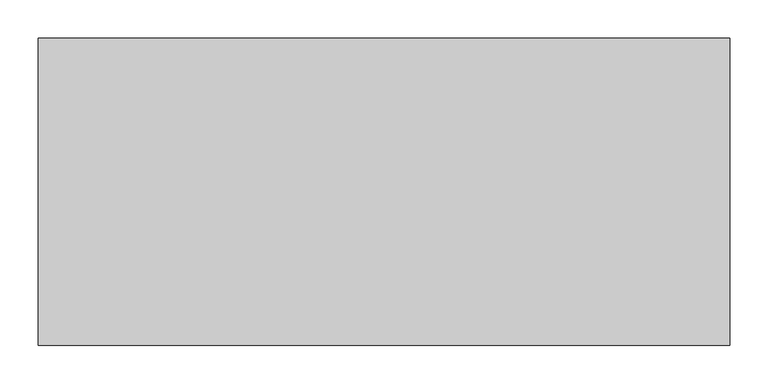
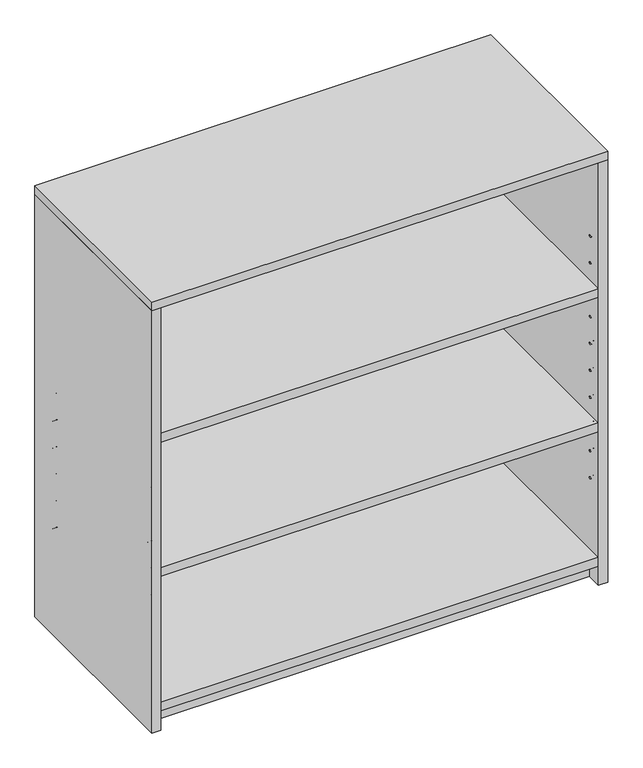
"""IFC4 building model written with IfcOpenShell, lengths in millimetres: furniture geometry, 4.5 Estantería baja : 4.5 Estantería baja."""

from ifc_helpers import new_model, si_unit, frame, origin, origin_with_axes, place, context, project, spatial, polyline, circle_curve, outline, extrude, faceted_brep, source, transform, mapped, element, save
from ifc_brep_helpers import plane_surface, revolved_surface, advanced_brep


def furniture_ab439d99(model_context):
    return source(origin(), model_context, "Body", "SolidModel", [
        extrude(outline(polyline([(432.0, 200.0), (432.0, 182.0), (-432.0, 182.0), (-432.0, 200.0), (432.0, 200.0)])), origin_with_axes(), (0.0, 0.0, 1.0), 882.0),
        faceted_brep([(450.0, -200.0, 882.0), (450.0, -200.0, 900.0), (-450.0, -200.0, 900.0), (-450.0, -200.0, 882.0), (450.0, 200.0, 900.0), (450.0, 200.0, 882.0), (-450.0, 200.0, 882.0), (-450.0, 200.0, 900.0)], [[[0, 1, 2, 3]], [[4, 5, 6, 7]], [[7, 2, 1, 4]], [[6, 3, 2, 7]], [[5, 0, 3, 6]], [[4, 1, 0, 5]]]),
        advanced_brep(
        [(-432.0, 155.0, 711.6133334), (-441.0, 155.0, 711.6133334), (-441.0, 151.0, 711.6133334), (-432.0, 151.0, 711.6133334), (-432.0, 155.0, 655.5147542), (-441.0, 155.0, 655.5147542), (-441.0, 151.0, 655.5147542), (-432.0, 151.0, 655.5147542), (-432.0, 155.0, 599.416175), (-441.0, 155.0, 599.416175), (-441.0, 151.0, 599.416175), (-432.0, 151.0, 599.416175), (-432.0, 155.0, 543.3175957), (-441.0, 155.0, 543.3175957), (-441.0, 151.0, 543.3175957), (-432.0, 151.0, 543.3175957), (-432.0, 155.0, 487.2190165), (-441.0, 155.0, 487.2190165), (-441.0, 151.0, 487.2190165), (-432.0, 151.0, 487.2190165), (-432.0, 155.0, 318.9232788), (-441.0, 155.0, 318.9232788), (-441.0, 151.0, 318.9232788), (-432.0, 151.0, 318.9232788), (-432.0, 155.0, 375.0218581), (-441.0, 155.0, 375.0218581), (-441.0, 151.0, 375.0218581), (-432.0, 151.0, 375.0218581), (-432.0, 155.0, 262.8246996), (-441.0, 155.0, 262.8246996), (-441.0, 151.0, 262.8246996), (-432.0, 151.0, 262.8246996), (-432.0, 155.0, 206.7261204), (-441.0, 155.0, 206.7261204), (-441.0, 151.0, 206.7261204), (-432.0, 151.0, 206.7261204), (-432.0, 155.0, 431.1204373), (-441.0, 155.0, 431.1204373), (-441.0, 151.0, 431.1204373), (-432.0, 151.0, 431.1204373), (-432.0, -169.0, 431.1204373), (-441.0, -169.0, 431.1204373), (-441.0, -173.0, 431.1204373), (-432.0, -173.0, 431.1204373), (-432.0, -169.0, 206.7261204), (-441.0, -169.0, 206.7261204), (-441.0, -173.0, 206.7261204), (-432.0, -173.0, 206.7261204), (-432.0, -169.0, 262.8246996), (-441.0, -169.0, 262.8246996), (-441.0, -173.0, 262.8246996), (-432.0, -173.0, 262.8246996), (-432.0, -169.0, 375.0218581), (-441.0, -169.0, 375.0218581), (-441.0, -173.0, 375.0218581), (-432.0, -173.0, 375.0218581), (-432.0, -169.0, 318.9232788), (-441.0, -169.0, 318.9232788), (-441.0, -173.0, 318.9232788), (-432.0, -173.0, 318.9232788), (-432.0, -169.0, 487.2190165), (-441.0, -169.0, 487.2190165), (-441.0, -173.0, 487.2190165), (-432.0, -173.0, 487.2190165), (-432.0, -169.0, 543.3175957), (-441.0, -169.0, 543.3175957), (-441.0, -173.0, 543.3175957), (-432.0, -173.0, 543.3175957), (-432.0, -169.0, 599.416175), (-441.0, -169.0, 599.416175), (-441.0, -173.0, 599.416175), (-432.0, -173.0, 599.416175), (-432.0, -169.0, 655.5147542), (-441.0, -169.0, 655.5147542), (-441.0, -173.0, 655.5147542), (-432.0, -173.0, 655.5147542), (-432.0, -169.0, 711.6133334), (-441.0, -169.0, 711.6133334), (-441.0, -173.0, 711.6133334), (-432.0, -173.0, 711.6133334), (-432.0, -200.0, 0.0), (-432.0, -200.0, 882.0), (-450.0, -200.0, 882.0), (-450.0, -200.0, 0.0), (-432.0, 200.0, 882.0), (-432.0, 200.0, 0.0), (-450.0, 200.0, 0.0), (-450.0, 200.0, 882.0)],
        [
            (0, 1),
            (1, 2, circle_curve(frame((-441.0, 153.0, 711.6133334), z_axis=(-1.0, 0.0, 0.0), x_axis=(0.0, 1.0, 0.0)), 2.0)),
            (2, 3),
            (3, 0, circle_curve(frame((-432.0, 153.0, 711.6133334), z_axis=(1.0, 0.0, 0.0), x_axis=(0.0, 1.0, 0.0)), 2.0)),
            (4, 5),
            (5, 6, circle_curve(frame((-441.0, 153.0, 655.5147542), z_axis=(-1.0, 0.0, 0.0), x_axis=(0.0, 1.0, 0.0)), 2.0)),
            (6, 7),
            (7, 4, circle_curve(frame((-432.0, 153.0, 655.5147542), z_axis=(1.0, 0.0, 0.0), x_axis=(0.0, 1.0, 0.0)), 2.0)),
            (8, 9),
            (9, 10, circle_curve(frame((-441.0, 153.0, 599.416175), z_axis=(-1.0, 0.0, 0.0), x_axis=(0.0, 1.0, 0.0)), 2.0)),
            (10, 11),
            (11, 8, circle_curve(frame((-432.0, 153.0, 599.416175), z_axis=(1.0, 0.0, 0.0), x_axis=(0.0, 1.0, 0.0)), 2.0)),
            (12, 13),
            (13, 14, circle_curve(frame((-441.0, 153.0, 543.3175957), z_axis=(-1.0, 0.0, 0.0), x_axis=(0.0, 1.0, 0.0)), 2.0)),
            (14, 15),
            (15, 12, circle_curve(frame((-432.0, 153.0, 543.3175957), z_axis=(1.0, 0.0, 0.0), x_axis=(0.0, 1.0, 0.0)), 2.0)),
            (16, 17),
            (17, 18, circle_curve(frame((-441.0, 153.0, 487.2190165), z_axis=(-1.0, 0.0, 0.0), x_axis=(0.0, 1.0, 0.0)), 2.0)),
            (18, 19),
            (19, 16, circle_curve(frame((-432.0, 153.0, 487.2190165), z_axis=(1.0, 0.0, 0.0), x_axis=(0.0, 1.0, 0.0)), 2.0)),
            (20, 21),
            (21, 22, circle_curve(frame((-441.0, 153.0, 318.9232788), z_axis=(-1.0, 0.0, 0.0), x_axis=(0.0, 1.0, 0.0)), 2.0)),
            (22, 23),
            (23, 20, circle_curve(frame((-432.0, 153.0, 318.9232788), z_axis=(1.0, 0.0, 0.0), x_axis=(0.0, 1.0, 0.0)), 2.0)),
            (24, 25),
            (25, 26, circle_curve(frame((-441.0, 153.0, 375.0218581), z_axis=(-1.0, 0.0, 0.0), x_axis=(0.0, 1.0, 0.0)), 2.0)),
            (26, 27),
            (27, 24, circle_curve(frame((-432.0, 153.0, 375.0218581), z_axis=(1.0, 0.0, 0.0), x_axis=(0.0, 1.0, 0.0)), 2.0)),
            (28, 29),
            (29, 30, circle_curve(frame((-441.0, 153.0, 262.8246996), z_axis=(-1.0, 0.0, 0.0), x_axis=(0.0, 1.0, 0.0)), 2.0)),
            (30, 31),
            (31, 28, circle_curve(frame((-432.0, 153.0, 262.8246996), z_axis=(1.0, 0.0, 0.0), x_axis=(0.0, 1.0, 0.0)), 2.0)),
            (32, 33),
            (33, 34, circle_curve(frame((-441.0, 153.0, 206.7261204), z_axis=(-1.0, 0.0, 0.0), x_axis=(0.0, 1.0, 0.0)), 2.0)),
            (34, 35),
            (35, 32, circle_curve(frame((-432.0, 153.0, 206.7261204), z_axis=(1.0, 0.0, 0.0), x_axis=(0.0, 1.0, 0.0)), 2.0)),
            (36, 37),
            (37, 38, circle_curve(frame((-441.0, 153.0, 431.1204373), z_axis=(-1.0, 0.0, 0.0), x_axis=(0.0, 1.0, 0.0)), 2.0)),
            (38, 39),
            (39, 36, circle_curve(frame((-432.0, 153.0, 431.1204373), z_axis=(1.0, 0.0, 0.0), x_axis=(0.0, 1.0, 0.0)), 2.0)),
            (40, 41),
            (41, 42, circle_curve(frame((-441.0, -171.0, 431.1204373), z_axis=(-1.0, 0.0, 0.0), x_axis=(0.0, 1.0, 0.0)), 2.0)),
            (42, 43),
            (43, 40, circle_curve(frame((-432.0, -171.0, 431.1204373), z_axis=(1.0, 0.0, 0.0), x_axis=(0.0, 1.0, 0.0)), 2.0)),
            (44, 45),
            (45, 46, circle_curve(frame((-441.0, -171.0, 206.7261204), z_axis=(-1.0, 0.0, 0.0), x_axis=(0.0, 1.0, 0.0)), 2.0)),
            (46, 47),
            (47, 44, circle_curve(frame((-432.0, -171.0, 206.7261204), z_axis=(1.0, 0.0, 0.0), x_axis=(0.0, 1.0, 0.0)), 2.0)),
            (48, 49),
            (49, 50, circle_curve(frame((-441.0, -171.0, 262.8246996), z_axis=(-1.0, 0.0, 0.0), x_axis=(0.0, 1.0, 0.0)), 2.0)),
            (50, 51),
            (51, 48, circle_curve(frame((-432.0, -171.0, 262.8246996), z_axis=(1.0, 0.0, 0.0), x_axis=(0.0, 1.0, 0.0)), 2.0)),
            (52, 53),
            (53, 54, circle_curve(frame((-441.0, -171.0, 375.0218581), z_axis=(-1.0, 0.0, 0.0), x_axis=(0.0, 1.0, 0.0)), 2.0)),
            (54, 55),
            (55, 52, circle_curve(frame((-432.0, -171.0, 375.0218581), z_axis=(1.0, 0.0, 0.0), x_axis=(0.0, 1.0, 0.0)), 2.0)),
            (56, 57),
            (57, 58, circle_curve(frame((-441.0, -171.0, 318.9232788), z_axis=(-1.0, 0.0, 0.0), x_axis=(0.0, 1.0, 0.0)), 2.0)),
            (58, 59),
            (59, 56, circle_curve(frame((-432.0, -171.0, 318.9232788), z_axis=(1.0, 0.0, 0.0), x_axis=(0.0, 1.0, 0.0)), 2.0)),
            (60, 61),
            (61, 62, circle_curve(frame((-441.0, -171.0, 487.2190165), z_axis=(-1.0, 0.0, 0.0), x_axis=(0.0, 1.0, 0.0)), 2.0)),
            (62, 63),
            (63, 60, circle_curve(frame((-432.0, -171.0, 487.2190165), z_axis=(1.0, 0.0, 0.0), x_axis=(0.0, 1.0, 0.0)), 2.0)),
            (64, 65),
            (65, 66, circle_curve(frame((-441.0, -171.0, 543.3175957), z_axis=(-1.0, 0.0, 0.0), x_axis=(0.0, 1.0, 0.0)), 2.0)),
            (66, 67),
            (67, 64, circle_curve(frame((-432.0, -171.0, 543.3175957), z_axis=(1.0, 0.0, 0.0), x_axis=(0.0, 1.0, 0.0)), 2.0)),
            (68, 69),
            (69, 70, circle_curve(frame((-441.0, -171.0, 599.416175), z_axis=(-1.0, 0.0, 0.0), x_axis=(0.0, 1.0, 0.0)), 2.0)),
            (70, 71),
            (71, 68, circle_curve(frame((-432.0, -171.0, 599.416175), z_axis=(1.0, 0.0, 0.0), x_axis=(0.0, 1.0, 0.0)), 2.0)),
            (72, 73),
            (73, 74, circle_curve(frame((-441.0, -171.0, 655.5147542), z_axis=(-1.0, 0.0, 0.0), x_axis=(0.0, 1.0, 0.0)), 2.0)),
            (74, 75),
            (75, 72, circle_curve(frame((-432.0, -171.0, 655.5147542), z_axis=(1.0, 0.0, 0.0), x_axis=(0.0, 1.0, 0.0)), 2.0)),
            (76, 77),
            (77, 78, circle_curve(frame((-441.0, -171.0, 711.6133334), z_axis=(-1.0, 0.0, 0.0), x_axis=(0.0, 1.0, 0.0)), 2.0)),
            (78, 79),
            (79, 76, circle_curve(frame((-432.0, -171.0, 711.6133334), z_axis=(1.0, 0.0, 0.0), x_axis=(0.0, 1.0, 0.0)), 2.0)),
            (76, 79, circle_curve(frame((-432.0, -171.0, 711.6133334), z_axis=(1.0, 0.0, 0.0), x_axis=(0.0, 1.0, 0.0)), 2.0)),
            (78, 77, circle_curve(frame((-441.0, -171.0, 711.6133334), z_axis=(-1.0, 0.0, 0.0), x_axis=(0.0, 1.0, 0.0)), 2.0)),
            (72, 75, circle_curve(frame((-432.0, -171.0, 655.5147542), z_axis=(1.0, 0.0, 0.0), x_axis=(0.0, 1.0, 0.0)), 2.0)),
            (74, 73, circle_curve(frame((-441.0, -171.0, 655.5147542), z_axis=(-1.0, 0.0, 0.0), x_axis=(0.0, 1.0, 0.0)), 2.0)),
            (68, 71, circle_curve(frame((-432.0, -171.0, 599.416175), z_axis=(1.0, 0.0, 0.0), x_axis=(0.0, 1.0, 0.0)), 2.0)),
            (70, 69, circle_curve(frame((-441.0, -171.0, 599.416175), z_axis=(-1.0, 0.0, 0.0), x_axis=(0.0, 1.0, 0.0)), 2.0)),
            (64, 67, circle_curve(frame((-432.0, -171.0, 543.3175957), z_axis=(1.0, 0.0, 0.0), x_axis=(0.0, 1.0, 0.0)), 2.0)),
            (66, 65, circle_curve(frame((-441.0, -171.0, 543.3175957), z_axis=(-1.0, 0.0, 0.0), x_axis=(0.0, 1.0, 0.0)), 2.0)),
            (60, 63, circle_curve(frame((-432.0, -171.0, 487.2190165), z_axis=(1.0, 0.0, 0.0), x_axis=(0.0, 1.0, 0.0)), 2.0)),
            (62, 61, circle_curve(frame((-441.0, -171.0, 487.2190165), z_axis=(-1.0, 0.0, 0.0), x_axis=(0.0, 1.0, 0.0)), 2.0)),
            (56, 59, circle_curve(frame((-432.0, -171.0, 318.9232788), z_axis=(1.0, 0.0, 0.0), x_axis=(0.0, 1.0, 0.0)), 2.0)),
            (58, 57, circle_curve(frame((-441.0, -171.0, 318.9232788), z_axis=(-1.0, 0.0, 0.0), x_axis=(0.0, 1.0, 0.0)), 2.0)),
            (52, 55, circle_curve(frame((-432.0, -171.0, 375.0218581), z_axis=(1.0, 0.0, 0.0), x_axis=(0.0, 1.0, 0.0)), 2.0)),
            (54, 53, circle_curve(frame((-441.0, -171.0, 375.0218581), z_axis=(-1.0, 0.0, 0.0), x_axis=(0.0, 1.0, 0.0)), 2.0)),
            (48, 51, circle_curve(frame((-432.0, -171.0, 262.8246996), z_axis=(1.0, 0.0, 0.0), x_axis=(0.0, 1.0, 0.0)), 2.0)),
            (50, 49, circle_curve(frame((-441.0, -171.0, 262.8246996), z_axis=(-1.0, 0.0, 0.0), x_axis=(0.0, 1.0, 0.0)), 2.0)),
            (44, 47, circle_curve(frame((-432.0, -171.0, 206.7261204), z_axis=(1.0, 0.0, 0.0), x_axis=(0.0, 1.0, 0.0)), 2.0)),
            (46, 45, circle_curve(frame((-441.0, -171.0, 206.7261204), z_axis=(-1.0, 0.0, 0.0), x_axis=(0.0, 1.0, 0.0)), 2.0)),
            (40, 43, circle_curve(frame((-432.0, -171.0, 431.1204373), z_axis=(1.0, 0.0, 0.0), x_axis=(0.0, 1.0, 0.0)), 2.0)),
            (42, 41, circle_curve(frame((-441.0, -171.0, 431.1204373), z_axis=(-1.0, 0.0, 0.0), x_axis=(0.0, 1.0, 0.0)), 2.0)),
            (36, 39, circle_curve(frame((-432.0, 153.0, 431.1204373), z_axis=(1.0, 0.0, 0.0), x_axis=(0.0, 1.0, 0.0)), 2.0)),
            (38, 37, circle_curve(frame((-441.0, 153.0, 431.1204373), z_axis=(-1.0, 0.0, 0.0), x_axis=(0.0, 1.0, 0.0)), 2.0)),
            (32, 35, circle_curve(frame((-432.0, 153.0, 206.7261204), z_axis=(1.0, 0.0, 0.0), x_axis=(0.0, 1.0, 0.0)), 2.0)),
            (34, 33, circle_curve(frame((-441.0, 153.0, 206.7261204), z_axis=(-1.0, 0.0, 0.0), x_axis=(0.0, 1.0, 0.0)), 2.0)),
            (28, 31, circle_curve(frame((-432.0, 153.0, 262.8246996), z_axis=(1.0, 0.0, 0.0), x_axis=(0.0, 1.0, 0.0)), 2.0)),
            (30, 29, circle_curve(frame((-441.0, 153.0, 262.8246996), z_axis=(-1.0, 0.0, 0.0), x_axis=(0.0, 1.0, 0.0)), 2.0)),
            (24, 27, circle_curve(frame((-432.0, 153.0, 375.0218581), z_axis=(1.0, 0.0, 0.0), x_axis=(0.0, 1.0, 0.0)), 2.0)),
            (26, 25, circle_curve(frame((-441.0, 153.0, 375.0218581), z_axis=(-1.0, 0.0, 0.0), x_axis=(0.0, 1.0, 0.0)), 2.0)),
            (20, 23, circle_curve(frame((-432.0, 153.0, 318.9232788), z_axis=(1.0, 0.0, 0.0), x_axis=(0.0, 1.0, 0.0)), 2.0)),
            (22, 21, circle_curve(frame((-441.0, 153.0, 318.9232788), z_axis=(-1.0, 0.0, 0.0), x_axis=(0.0, 1.0, 0.0)), 2.0)),
            (16, 19, circle_curve(frame((-432.0, 153.0, 487.2190165), z_axis=(1.0, 0.0, 0.0), x_axis=(0.0, 1.0, 0.0)), 2.0)),
            (18, 17, circle_curve(frame((-441.0, 153.0, 487.2190165), z_axis=(-1.0, 0.0, 0.0), x_axis=(0.0, 1.0, 0.0)), 2.0)),
            (12, 15, circle_curve(frame((-432.0, 153.0, 543.3175957), z_axis=(1.0, 0.0, 0.0), x_axis=(0.0, 1.0, 0.0)), 2.0)),
            (14, 13, circle_curve(frame((-441.0, 153.0, 543.3175957), z_axis=(-1.0, 0.0, 0.0), x_axis=(0.0, 1.0, 0.0)), 2.0)),
            (8, 11, circle_curve(frame((-432.0, 153.0, 599.416175), z_axis=(1.0, 0.0, 0.0), x_axis=(0.0, 1.0, 0.0)), 2.0)),
            (10, 9, circle_curve(frame((-441.0, 153.0, 599.416175), z_axis=(-1.0, 0.0, 0.0), x_axis=(0.0, 1.0, 0.0)), 2.0)),
            (4, 7, circle_curve(frame((-432.0, 153.0, 655.5147542), z_axis=(1.0, 0.0, 0.0), x_axis=(0.0, 1.0, 0.0)), 2.0)),
            (6, 5, circle_curve(frame((-441.0, 153.0, 655.5147542), z_axis=(-1.0, 0.0, 0.0), x_axis=(0.0, 1.0, 0.0)), 2.0)),
            (0, 3, circle_curve(frame((-432.0, 153.0, 711.6133334), z_axis=(1.0, 0.0, 0.0), x_axis=(0.0, 1.0, 0.0)), 2.0)),
            (2, 1, circle_curve(frame((-441.0, 153.0, 711.6133334), z_axis=(-1.0, 0.0, 0.0), x_axis=(0.0, 1.0, 0.0)), 2.0)),
            (80, 81),
            (81, 82),
            (82, 83),
            (83, 80),
            (84, 85),
            (85, 86),
            (86, 87),
            (87, 84),
            (83, 86),
            (85, 80),
            (82, 87),
            (81, 84),
        ],
        [
            revolved_surface(polyline([(-432.0, 155.0, 711.6133334), (-441.0, 155.0, 711.6133334)]), (-441.0, 153.0, 711.6133334), (1.0, 0.0, 0.0)),
            revolved_surface(polyline([(-432.0, 155.0, 655.5147542), (-441.0, 155.0, 655.5147542)]), (-441.0, 153.0, 655.5147542), (1.0, 0.0, 0.0)),
            revolved_surface(polyline([(-432.0, 155.0, 599.416175), (-441.0, 155.0, 599.416175)]), (-441.0, 153.0, 599.416175), (1.0, 0.0, 0.0)),
            revolved_surface(polyline([(-432.0, 155.0, 543.3175957), (-441.0, 155.0, 543.3175957)]), (-441.0, 153.0, 543.3175957), (1.0, 0.0, 0.0)),
            revolved_surface(polyline([(-432.0, 155.0, 487.2190165), (-441.0, 155.0, 487.2190165)]), (-441.0, 153.0, 487.2190165), (1.0, 0.0, 0.0)),
            revolved_surface(polyline([(-432.0, 155.0, 318.9232788), (-441.0, 155.0, 318.9232788)]), (-441.0, 153.0, 318.9232788), (1.0, 0.0, 0.0)),
            revolved_surface(polyline([(-432.0, 155.0, 375.0218581), (-441.0, 155.0, 375.0218581)]), (-441.0, 153.0, 375.0218581), (1.0, 0.0, 0.0)),
            revolved_surface(polyline([(-432.0, 155.0, 262.8246996), (-441.0, 155.0, 262.8246996)]), (-441.0, 153.0, 262.8246996), (1.0, 0.0, 0.0)),
            revolved_surface(polyline([(-432.0, 155.0, 206.7261204), (-441.0, 155.0, 206.7261204)]), (-441.0, 153.0, 206.7261204), (1.0, 0.0, 0.0)),
            revolved_surface(polyline([(-432.0, 155.0, 431.1204373), (-441.0, 155.0, 431.1204373)]), (-441.0, 153.0, 431.1204373), (1.0, 0.0, 0.0)),
            revolved_surface(polyline([(-432.0, -169.0, 431.1204373), (-441.0, -169.0, 431.1204373)]), (-441.0, -171.0, 431.1204373), (1.0, 0.0, 0.0)),
            revolved_surface(polyline([(-432.0, -169.0, 206.7261204), (-441.0, -169.0, 206.7261204)]), (-441.0, -171.0, 206.7261204), (1.0, 0.0, 0.0)),
            revolved_surface(polyline([(-432.0, -169.0, 262.8246996), (-441.0, -169.0, 262.8246996)]), (-441.0, -171.0, 262.8246996), (1.0, 0.0, 0.0)),
            revolved_surface(polyline([(-432.0, -169.0, 375.0218581), (-441.0, -169.0, 375.0218581)]), (-441.0, -171.0, 375.0218581), (1.0, 0.0, 0.0)),
            revolved_surface(polyline([(-432.0, -169.0, 318.9232788), (-441.0, -169.0, 318.9232788)]), (-441.0, -171.0, 318.9232788), (1.0, 0.0, 0.0)),
            revolved_surface(polyline([(-432.0, -169.0, 487.2190165), (-441.0, -169.0, 487.2190165)]), (-441.0, -171.0, 487.2190165), (1.0, 0.0, 0.0)),
            revolved_surface(polyline([(-432.0, -169.0, 543.3175957), (-441.0, -169.0, 543.3175957)]), (-441.0, -171.0, 543.3175957), (1.0, 0.0, 0.0)),
            revolved_surface(polyline([(-432.0, -169.0, 599.416175), (-441.0, -169.0, 599.416175)]), (-441.0, -171.0, 599.416175), (1.0, 0.0, 0.0)),
            revolved_surface(polyline([(-432.0, -169.0, 655.5147542), (-441.0, -169.0, 655.5147542)]), (-441.0, -171.0, 655.5147542), (1.0, 0.0, 0.0)),
            revolved_surface(polyline([(-432.0, -169.0, 711.6133334), (-441.0, -169.0, 711.6133334)]), (-441.0, -171.0, 711.6133334), (1.0, 0.0, 0.0)),
            plane_surface(frame((-441.0, -171.0, 711.6133334), z_axis=(1.0, 0.0, 0.0), x_axis=(0.0, 0.0, -1.0))),
            plane_surface(frame((-441.0, -171.0, 655.5147542), z_axis=(1.0, 0.0, 0.0), x_axis=(0.0, 0.0, -1.0))),
            plane_surface(frame((-441.0, -171.0, 599.416175), z_axis=(1.0, 0.0, 0.0), x_axis=(0.0, 0.0, -1.0))),
            plane_surface(frame((-441.0, -171.0, 543.3175957), z_axis=(1.0, 0.0, 0.0), x_axis=(0.0, 0.0, -1.0))),
            plane_surface(frame((-441.0, -171.0, 487.2190165), z_axis=(1.0, 0.0, 0.0), x_axis=(0.0, 0.0, -1.0))),
            plane_surface(frame((-441.0, -171.0, 318.9232788), z_axis=(1.0, 0.0, 0.0), x_axis=(0.0, 0.0, -1.0))),
            plane_surface(frame((-441.0, -171.0, 375.0218581), z_axis=(1.0, 0.0, 0.0), x_axis=(0.0, 0.0, -1.0))),
            plane_surface(frame((-441.0, -171.0, 262.8246996), z_axis=(1.0, 0.0, 0.0), x_axis=(0.0, 0.0, -1.0))),
            plane_surface(frame((-441.0, -171.0, 206.7261204), z_axis=(1.0, 0.0, 0.0), x_axis=(0.0, 0.0, -1.0))),
            plane_surface(frame((-441.0, -171.0, 431.1204373), z_axis=(1.0, 0.0, 0.0), x_axis=(0.0, 0.0, -1.0))),
            plane_surface(frame((-441.0, 153.0, 431.1204373), z_axis=(1.0, 0.0, 0.0), x_axis=(0.0, 0.0, -1.0))),
            plane_surface(frame((-441.0, 153.0, 206.7261204), z_axis=(1.0, 0.0, 0.0), x_axis=(0.0, 0.0, -1.0))),
            plane_surface(frame((-441.0, 153.0, 262.8246996), z_axis=(1.0, 0.0, 0.0), x_axis=(0.0, 0.0, -1.0))),
            plane_surface(frame((-441.0, 153.0, 375.0218581), z_axis=(1.0, 0.0, 0.0), x_axis=(0.0, 0.0, -1.0))),
            plane_surface(frame((-441.0, 153.0, 318.9232788), z_axis=(1.0, 0.0, 0.0), x_axis=(0.0, 0.0, -1.0))),
            plane_surface(frame((-441.0, 153.0, 487.2190165), z_axis=(1.0, 0.0, 0.0), x_axis=(0.0, 0.0, -1.0))),
            plane_surface(frame((-441.0, 153.0, 543.3175957), z_axis=(1.0, 0.0, 0.0), x_axis=(0.0, 0.0, -1.0))),
            plane_surface(frame((-441.0, 153.0, 599.416175), z_axis=(1.0, 0.0, 0.0), x_axis=(0.0, 0.0, -1.0))),
            plane_surface(frame((-441.0, 153.0, 655.5147542), z_axis=(1.0, 0.0, 0.0), x_axis=(0.0, 0.0, -1.0))),
            plane_surface(frame((-441.0, 153.0, 711.6133334), z_axis=(1.0, 0.0, 0.0), x_axis=(0.0, 0.0, -1.0))),
            plane_surface(frame((-441.0, -200.0, 441.0), z_axis=(0.0, -1.0, 0.0), x_axis=(1.0, 0.0, 0.0))),
            plane_surface(frame((-441.0, 200.0, 441.0), z_axis=(0.0, 1.0, 0.0), x_axis=(1.0, 0.0, 0.0))),
            plane_surface(frame((-441.0, 0.0, 0.0), z_axis=(0.0, 0.0, -1.0), x_axis=(0.0, -1.0, 0.0))),
            plane_surface(frame((-450.0, 0.0, 441.0), z_axis=(-1.0, 0.0, 0.0), x_axis=(0.0, 1.0, 0.0))),
            plane_surface(frame((-441.0, 0.0, 882.0), z_axis=(0.0, 0.0, 1.0), x_axis=(0.0, 1.0, 0.0))),
            plane_surface(frame((-432.0, 0.0, 441.0), z_axis=(1.0, 0.0, 0.0), x_axis=(0.0, -1.0, 0.0))),
        ],
        [
            (0, [[1, 2, 3, 4]]),
            (1, [[5, 6, 7, 8]]),
            (2, [[9, 10, 11, 12]]),
            (3, [[13, 14, 15, 16]]),
            (4, [[17, 18, 19, 20]]),
            (5, [[21, 22, 23, 24]]),
            (6, [[25, 26, 27, 28]]),
            (7, [[29, 30, 31, 32]]),
            (8, [[33, 34, 35, 36]]),
            (9, [[37, 38, 39, 40]]),
            (10, [[41, 42, 43, 44]]),
            (11, [[45, 46, 47, 48]]),
            (12, [[49, 50, 51, 52]]),
            (13, [[53, 54, 55, 56]]),
            (14, [[57, 58, 59, 60]]),
            (15, [[61, 62, 63, 64]]),
            (16, [[65, 66, 67, 68]]),
            (17, [[69, 70, 71, 72]]),
            (18, [[73, 74, 75, 76]]),
            (19, [[77, 78, 79, 80]]),
            (19, [[-77, 81, -79, 82]]),
            (20, [[-82, -78]]),
            (18, [[-73, 83, -75, 84]]),
            (21, [[-84, -74]]),
            (17, [[-69, 85, -71, 86]]),
            (22, [[-86, -70]]),
            (16, [[-65, 87, -67, 88]]),
            (23, [[-88, -66]]),
            (15, [[-61, 89, -63, 90]]),
            (24, [[-90, -62]]),
            (14, [[-57, 91, -59, 92]]),
            (25, [[-92, -58]]),
            (13, [[-53, 93, -55, 94]]),
            (26, [[-94, -54]]),
            (12, [[-49, 95, -51, 96]]),
            (27, [[-96, -50]]),
            (11, [[-45, 97, -47, 98]]),
            (28, [[-98, -46]]),
            (10, [[-41, 99, -43, 100]]),
            (29, [[-100, -42]]),
            (9, [[-37, 101, -39, 102]]),
            (30, [[-102, -38]]),
            (8, [[-33, 103, -35, 104]]),
            (31, [[-104, -34]]),
            (7, [[-29, 105, -31, 106]]),
            (32, [[-106, -30]]),
            (6, [[-25, 107, -27, 108]]),
            (33, [[-108, -26]]),
            (5, [[-21, 109, -23, 110]]),
            (34, [[-110, -22]]),
            (4, [[-17, 111, -19, 112]]),
            (35, [[-112, -18]]),
            (3, [[-13, 113, -15, 114]]),
            (36, [[-114, -14]]),
            (2, [[-9, 115, -11, 116]]),
            (37, [[-116, -10]]),
            (1, [[-5, 117, -7, 118]]),
            (38, [[-118, -6]]),
            (0, [[-1, 119, -3, 120]]),
            (39, [[-120, -2]]),
            (40, [[121, 122, 123, 124]]),
            (41, [[125, 126, 127, 128]]),
            (42, [[129, -126, 130, -124]]),
            (43, [[131, -127, -129, -123]]),
            (44, [[132, -128, -131, -122]]),
            (45, [[-130, -125, -132, -121], [-81, -80], [-83, -76], [-85, -72], [-87, -68], [-89, -64], [-91, -60], [-93, -56], [-95, -52], [-97, -48], [-99, -44], [-101, -40], [-103, -36], [-105, -32], [-107, -28], [-109, -24], [-111, -20], [-113, -16], [-115, -12], [-117, -8], [-119, -4]]),
        ],
    ),
        advanced_brep(
        [(432.0, 155.0, 711.6133334), (441.0, 155.0, 711.6133334), (441.0, 151.0, 711.6133334), (432.0, 151.0, 711.6133334), (432.0, 155.0, 655.5147542), (441.0, 155.0, 655.5147542), (441.0, 151.0, 655.5147542), (432.0, 151.0, 655.5147542), (432.0, 155.0, 599.416175), (441.0, 155.0, 599.416175), (441.0, 151.0, 599.416175), (432.0, 151.0, 599.416175), (432.0, 155.0, 543.3175957), (441.0, 155.0, 543.3175957), (441.0, 151.0, 543.3175957), (432.0, 151.0, 543.3175957), (432.0, 155.0, 487.2190165), (441.0, 155.0, 487.2190165), (441.0, 151.0, 487.2190165), (432.0, 151.0, 487.2190165), (432.0, 155.0, 318.9232788), (441.0, 155.0, 318.9232788), (441.0, 151.0, 318.9232788), (432.0, 151.0, 318.9232788), (432.0, 155.0, 375.0218581), (441.0, 155.0, 375.0218581), (441.0, 151.0, 375.0218581), (432.0, 151.0, 375.0218581), (432.0, 155.0, 262.8246996), (441.0, 155.0, 262.8246996), (441.0, 151.0, 262.8246996), (432.0, 151.0, 262.8246996), (432.0, 155.0, 206.7261204), (441.0, 155.0, 206.7261204), (441.0, 151.0, 206.7261204), (432.0, 151.0, 206.7261204), (432.0, 155.0, 431.1204373), (441.0, 155.0, 431.1204373), (441.0, 151.0, 431.1204373), (432.0, 151.0, 431.1204373), (432.0, -169.0, 431.1204373), (441.0, -169.0, 431.1204373), (441.0, -173.0, 431.1204373), (432.0, -173.0, 431.1204373), (432.0, -169.0, 206.7261204), (441.0, -169.0, 206.7261204), (441.0, -173.0, 206.7261204), (432.0, -173.0, 206.7261204), (432.0, -169.0, 262.8246996), (441.0, -169.0, 262.8246996), (441.0, -173.0, 262.8246996), (432.0, -173.0, 262.8246996), (432.0, -169.0, 375.0218581), (441.0, -169.0, 375.0218581), (441.0, -173.0, 375.0218581), (432.0, -173.0, 375.0218581), (432.0, -169.0, 318.9232788), (441.0, -169.0, 318.9232788), (441.0, -173.0, 318.9232788), (432.0, -173.0, 318.9232788), (432.0, -169.0, 487.2190165), (441.0, -169.0, 487.2190165), (441.0, -173.0, 487.2190165), (432.0, -173.0, 487.2190165), (432.0, -169.0, 543.3175957), (441.0, -169.0, 543.3175957), (441.0, -173.0, 543.3175957), (432.0, -173.0, 543.3175957), (432.0, -169.0, 599.416175), (441.0, -169.0, 599.416175), (441.0, -173.0, 599.416175), (432.0, -173.0, 599.416175), (432.0, -169.0, 655.5147542), (441.0, -169.0, 655.5147542), (441.0, -173.0, 655.5147542), (432.0, -173.0, 655.5147542), (432.0, -169.0, 711.6133334), (441.0, -169.0, 711.6133334), (441.0, -173.0, 711.6133334), (432.0, -173.0, 711.6133334), (450.0, -200.0, 0.0), (450.0, -200.0, 882.0), (432.0, -200.0, 882.0), (432.0, -200.0, 0.0), (450.0, 200.0, 882.0), (450.0, 200.0, 0.0), (432.0, 200.0, 0.0), (432.0, 200.0, 882.0)],
        [
            (0, 1),
            (1, 2, circle_curve(frame((441.0, 153.0, 711.6133334), z_axis=(1.0, 0.0, 0.0), x_axis=(0.0, 1.0, 0.0)), 2.0)),
            (2, 3),
            (3, 0, circle_curve(frame((432.0, 153.0, 711.6133334), z_axis=(-1.0, 0.0, 0.0), x_axis=(0.0, 1.0, 0.0)), 2.0)),
            (4, 5),
            (5, 6, circle_curve(frame((441.0, 153.0, 655.5147542), z_axis=(1.0, 0.0, 0.0), x_axis=(0.0, 1.0, 0.0)), 2.0)),
            (6, 7),
            (7, 4, circle_curve(frame((432.0, 153.0, 655.5147542), z_axis=(-1.0, 0.0, 0.0), x_axis=(0.0, 1.0, 0.0)), 2.0)),
            (8, 9),
            (9, 10, circle_curve(frame((441.0, 153.0, 599.416175), z_axis=(1.0, 0.0, 0.0), x_axis=(0.0, 1.0, 0.0)), 2.0)),
            (10, 11),
            (11, 8, circle_curve(frame((432.0, 153.0, 599.416175), z_axis=(-1.0, 0.0, 0.0), x_axis=(0.0, 1.0, 0.0)), 2.0)),
            (12, 13),
            (13, 14, circle_curve(frame((441.0, 153.0, 543.3175957), z_axis=(1.0, 0.0, 0.0), x_axis=(0.0, 1.0, 0.0)), 2.0)),
            (14, 15),
            (15, 12, circle_curve(frame((432.0, 153.0, 543.3175957), z_axis=(-1.0, 0.0, 0.0), x_axis=(0.0, 1.0, 0.0)), 2.0)),
            (16, 17),
            (17, 18, circle_curve(frame((441.0, 153.0, 487.2190165), z_axis=(1.0, 0.0, 0.0), x_axis=(0.0, 1.0, 0.0)), 2.0)),
            (18, 19),
            (19, 16, circle_curve(frame((432.0, 153.0, 487.2190165), z_axis=(-1.0, 0.0, 0.0), x_axis=(0.0, 1.0, 0.0)), 2.0)),
            (20, 21),
            (21, 22, circle_curve(frame((441.0, 153.0, 318.9232788), z_axis=(1.0, 0.0, 0.0), x_axis=(0.0, 1.0, 0.0)), 2.0)),
            (22, 23),
            (23, 20, circle_curve(frame((432.0, 153.0, 318.9232788), z_axis=(-1.0, 0.0, 0.0), x_axis=(0.0, 1.0, 0.0)), 2.0)),
            (24, 25),
            (25, 26, circle_curve(frame((441.0, 153.0, 375.0218581), z_axis=(1.0, 0.0, 0.0), x_axis=(0.0, 1.0, 0.0)), 2.0)),
            (26, 27),
            (27, 24, circle_curve(frame((432.0, 153.0, 375.0218581), z_axis=(-1.0, 0.0, 0.0), x_axis=(0.0, 1.0, 0.0)), 2.0)),
            (28, 29),
            (29, 30, circle_curve(frame((441.0, 153.0, 262.8246996), z_axis=(1.0, 0.0, 0.0), x_axis=(0.0, 1.0, 0.0)), 2.0)),
            (30, 31),
            (31, 28, circle_curve(frame((432.0, 153.0, 262.8246996), z_axis=(-1.0, 0.0, 0.0), x_axis=(0.0, 1.0, 0.0)), 2.0)),
            (32, 33),
            (33, 34, circle_curve(frame((441.0, 153.0, 206.7261204), z_axis=(1.0, 0.0, 0.0), x_axis=(0.0, 1.0, 0.0)), 2.0)),
            (34, 35),
            (35, 32, circle_curve(frame((432.0, 153.0, 206.7261204), z_axis=(-1.0, 0.0, 0.0), x_axis=(0.0, 1.0, 0.0)), 2.0)),
            (36, 37),
            (37, 38, circle_curve(frame((441.0, 153.0, 431.1204373), z_axis=(1.0, 0.0, 0.0), x_axis=(0.0, 1.0, 0.0)), 2.0)),
            (38, 39),
            (39, 36, circle_curve(frame((432.0, 153.0, 431.1204373), z_axis=(-1.0, 0.0, 0.0), x_axis=(0.0, 1.0, 0.0)), 2.0)),
            (40, 41),
            (41, 42, circle_curve(frame((441.0, -171.0, 431.1204373), z_axis=(1.0, 0.0, 0.0), x_axis=(0.0, 1.0, 0.0)), 2.0)),
            (42, 43),
            (43, 40, circle_curve(frame((432.0, -171.0, 431.1204373), z_axis=(-1.0, 0.0, 0.0), x_axis=(0.0, 1.0, 0.0)), 2.0)),
            (44, 45),
            (45, 46, circle_curve(frame((441.0, -171.0, 206.7261204), z_axis=(1.0, 0.0, 0.0), x_axis=(0.0, 1.0, 0.0)), 2.0)),
            (46, 47),
            (47, 44, circle_curve(frame((432.0, -171.0, 206.7261204), z_axis=(-1.0, 0.0, 0.0), x_axis=(0.0, 1.0, 0.0)), 2.0)),
            (48, 49),
            (49, 50, circle_curve(frame((441.0, -171.0, 262.8246996), z_axis=(1.0, 0.0, 0.0), x_axis=(0.0, 1.0, 0.0)), 2.0)),
            (50, 51),
            (51, 48, circle_curve(frame((432.0, -171.0, 262.8246996), z_axis=(-1.0, 0.0, 0.0), x_axis=(0.0, 1.0, 0.0)), 2.0)),
            (52, 53),
            (53, 54, circle_curve(frame((441.0, -171.0, 375.0218581), z_axis=(1.0, 0.0, 0.0), x_axis=(0.0, 1.0, 0.0)), 2.0)),
            (54, 55),
            (55, 52, circle_curve(frame((432.0, -171.0, 375.0218581), z_axis=(-1.0, 0.0, 0.0), x_axis=(0.0, 1.0, 0.0)), 2.0)),
            (56, 57),
            (57, 58, circle_curve(frame((441.0, -171.0, 318.9232788), z_axis=(1.0, 0.0, 0.0), x_axis=(0.0, 1.0, 0.0)), 2.0)),
            (58, 59),
            (59, 56, circle_curve(frame((432.0, -171.0, 318.9232788), z_axis=(-1.0, 0.0, 0.0), x_axis=(0.0, 1.0, 0.0)), 2.0)),
            (60, 61),
            (61, 62, circle_curve(frame((441.0, -171.0, 487.2190165), z_axis=(1.0, 0.0, 0.0), x_axis=(0.0, 1.0, 0.0)), 2.0)),
            (62, 63),
            (63, 60, circle_curve(frame((432.0, -171.0, 487.2190165), z_axis=(-1.0, 0.0, 0.0), x_axis=(0.0, 1.0, 0.0)), 2.0)),
            (64, 65),
            (65, 66, circle_curve(frame((441.0, -171.0, 543.3175957), z_axis=(1.0, 0.0, 0.0), x_axis=(0.0, 1.0, 0.0)), 2.0)),
            (66, 67),
            (67, 64, circle_curve(frame((432.0, -171.0, 543.3175957), z_axis=(-1.0, 0.0, 0.0), x_axis=(0.0, 1.0, 0.0)), 2.0)),
            (68, 69),
            (69, 70, circle_curve(frame((441.0, -171.0, 599.416175), z_axis=(1.0, 0.0, 0.0), x_axis=(0.0, 1.0, 0.0)), 2.0)),
            (70, 71),
            (71, 68, circle_curve(frame((432.0, -171.0, 599.416175), z_axis=(-1.0, 0.0, 0.0), x_axis=(0.0, 1.0, 0.0)), 2.0)),
            (72, 73),
            (73, 74, circle_curve(frame((441.0, -171.0, 655.5147542), z_axis=(1.0, 0.0, 0.0), x_axis=(0.0, 1.0, 0.0)), 2.0)),
            (74, 75),
            (75, 72, circle_curve(frame((432.0, -171.0, 655.5147542), z_axis=(-1.0, 0.0, 0.0), x_axis=(0.0, 1.0, 0.0)), 2.0)),
            (76, 77),
            (77, 78, circle_curve(frame((441.0, -171.0, 711.6133334), z_axis=(1.0, 0.0, 0.0), x_axis=(0.0, 1.0, 0.0)), 2.0)),
            (78, 79),
            (79, 76, circle_curve(frame((432.0, -171.0, 711.6133334), z_axis=(-1.0, 0.0, 0.0), x_axis=(0.0, 1.0, 0.0)), 2.0)),
            (76, 79, circle_curve(frame((432.0, -171.0, 711.6133334), z_axis=(-1.0, 0.0, 0.0), x_axis=(0.0, 1.0, 0.0)), 2.0)),
            (78, 77, circle_curve(frame((441.0, -171.0, 711.6133334), z_axis=(1.0, 0.0, 0.0), x_axis=(0.0, 1.0, 0.0)), 2.0)),
            (72, 75, circle_curve(frame((432.0, -171.0, 655.5147542), z_axis=(-1.0, 0.0, 0.0), x_axis=(0.0, 1.0, 0.0)), 2.0)),
            (74, 73, circle_curve(frame((441.0, -171.0, 655.5147542), z_axis=(1.0, 0.0, 0.0), x_axis=(0.0, 1.0, 0.0)), 2.0)),
            (68, 71, circle_curve(frame((432.0, -171.0, 599.416175), z_axis=(-1.0, 0.0, 0.0), x_axis=(0.0, 1.0, 0.0)), 2.0)),
            (70, 69, circle_curve(frame((441.0, -171.0, 599.416175), z_axis=(1.0, 0.0, 0.0), x_axis=(0.0, 1.0, 0.0)), 2.0)),
            (64, 67, circle_curve(frame((432.0, -171.0, 543.3175957), z_axis=(-1.0, 0.0, 0.0), x_axis=(0.0, 1.0, 0.0)), 2.0)),
            (66, 65, circle_curve(frame((441.0, -171.0, 543.3175957), z_axis=(1.0, 0.0, 0.0), x_axis=(0.0, 1.0, 0.0)), 2.0)),
            (60, 63, circle_curve(frame((432.0, -171.0, 487.2190165), z_axis=(-1.0, 0.0, 0.0), x_axis=(0.0, 1.0, 0.0)), 2.0)),
            (62, 61, circle_curve(frame((441.0, -171.0, 487.2190165), z_axis=(1.0, 0.0, 0.0), x_axis=(0.0, 1.0, 0.0)), 2.0)),
            (56, 59, circle_curve(frame((432.0, -171.0, 318.9232788), z_axis=(-1.0, 0.0, 0.0), x_axis=(0.0, 1.0, 0.0)), 2.0)),
            (58, 57, circle_curve(frame((441.0, -171.0, 318.9232788), z_axis=(1.0, 0.0, 0.0), x_axis=(0.0, 1.0, 0.0)), 2.0)),
            (52, 55, circle_curve(frame((432.0, -171.0, 375.0218581), z_axis=(-1.0, 0.0, 0.0), x_axis=(0.0, 1.0, 0.0)), 2.0)),
            (54, 53, circle_curve(frame((441.0, -171.0, 375.0218581), z_axis=(1.0, 0.0, 0.0), x_axis=(0.0, 1.0, 0.0)), 2.0)),
            (48, 51, circle_curve(frame((432.0, -171.0, 262.8246996), z_axis=(-1.0, 0.0, 0.0), x_axis=(0.0, 1.0, 0.0)), 2.0)),
            (50, 49, circle_curve(frame((441.0, -171.0, 262.8246996), z_axis=(1.0, 0.0, 0.0), x_axis=(0.0, 1.0, 0.0)), 2.0)),
            (44, 47, circle_curve(frame((432.0, -171.0, 206.7261204), z_axis=(-1.0, 0.0, 0.0), x_axis=(0.0, 1.0, 0.0)), 2.0)),
            (46, 45, circle_curve(frame((441.0, -171.0, 206.7261204), z_axis=(1.0, 0.0, 0.0), x_axis=(0.0, 1.0, 0.0)), 2.0)),
            (40, 43, circle_curve(frame((432.0, -171.0, 431.1204373), z_axis=(-1.0, 0.0, 0.0), x_axis=(0.0, 1.0, 0.0)), 2.0)),
            (42, 41, circle_curve(frame((441.0, -171.0, 431.1204373), z_axis=(1.0, 0.0, 0.0), x_axis=(0.0, 1.0, 0.0)), 2.0)),
            (36, 39, circle_curve(frame((432.0, 153.0, 431.1204373), z_axis=(-1.0, 0.0, 0.0), x_axis=(0.0, 1.0, 0.0)), 2.0)),
            (38, 37, circle_curve(frame((441.0, 153.0, 431.1204373), z_axis=(1.0, 0.0, 0.0), x_axis=(0.0, 1.0, 0.0)), 2.0)),
            (32, 35, circle_curve(frame((432.0, 153.0, 206.7261204), z_axis=(-1.0, 0.0, 0.0), x_axis=(0.0, 1.0, 0.0)), 2.0)),
            (34, 33, circle_curve(frame((441.0, 153.0, 206.7261204), z_axis=(1.0, 0.0, 0.0), x_axis=(0.0, 1.0, 0.0)), 2.0)),
            (28, 31, circle_curve(frame((432.0, 153.0, 262.8246996), z_axis=(-1.0, 0.0, 0.0), x_axis=(0.0, 1.0, 0.0)), 2.0)),
            (30, 29, circle_curve(frame((441.0, 153.0, 262.8246996), z_axis=(1.0, 0.0, 0.0), x_axis=(0.0, 1.0, 0.0)), 2.0)),
            (24, 27, circle_curve(frame((432.0, 153.0, 375.0218581), z_axis=(-1.0, 0.0, 0.0), x_axis=(0.0, 1.0, 0.0)), 2.0)),
            (26, 25, circle_curve(frame((441.0, 153.0, 375.0218581), z_axis=(1.0, 0.0, 0.0), x_axis=(0.0, 1.0, 0.0)), 2.0)),
            (20, 23, circle_curve(frame((432.0, 153.0, 318.9232788), z_axis=(-1.0, 0.0, 0.0), x_axis=(0.0, 1.0, 0.0)), 2.0)),
            (22, 21, circle_curve(frame((441.0, 153.0, 318.9232788), z_axis=(1.0, 0.0, 0.0), x_axis=(0.0, 1.0, 0.0)), 2.0)),
            (16, 19, circle_curve(frame((432.0, 153.0, 487.2190165), z_axis=(-1.0, 0.0, 0.0), x_axis=(0.0, 1.0, 0.0)), 2.0)),
            (18, 17, circle_curve(frame((441.0, 153.0, 487.2190165), z_axis=(1.0, 0.0, 0.0), x_axis=(0.0, 1.0, 0.0)), 2.0)),
            (12, 15, circle_curve(frame((432.0, 153.0, 543.3175957), z_axis=(-1.0, 0.0, 0.0), x_axis=(0.0, 1.0, 0.0)), 2.0)),
            (14, 13, circle_curve(frame((441.0, 153.0, 543.3175957), z_axis=(1.0, 0.0, 0.0), x_axis=(0.0, 1.0, 0.0)), 2.0)),
            (8, 11, circle_curve(frame((432.0, 153.0, 599.416175), z_axis=(-1.0, 0.0, 0.0), x_axis=(0.0, 1.0, 0.0)), 2.0)),
            (10, 9, circle_curve(frame((441.0, 153.0, 599.416175), z_axis=(1.0, 0.0, 0.0), x_axis=(0.0, 1.0, 0.0)), 2.0)),
            (4, 7, circle_curve(frame((432.0, 153.0, 655.5147542), z_axis=(-1.0, 0.0, 0.0), x_axis=(0.0, 1.0, 0.0)), 2.0)),
            (6, 5, circle_curve(frame((441.0, 153.0, 655.5147542), z_axis=(1.0, 0.0, 0.0), x_axis=(0.0, 1.0, 0.0)), 2.0)),
            (0, 3, circle_curve(frame((432.0, 153.0, 711.6133334), z_axis=(-1.0, 0.0, 0.0), x_axis=(0.0, 1.0, 0.0)), 2.0)),
            (2, 1, circle_curve(frame((441.0, 153.0, 711.6133334), z_axis=(1.0, 0.0, 0.0), x_axis=(0.0, 1.0, 0.0)), 2.0)),
            (80, 81),
            (81, 82),
            (82, 83),
            (83, 80),
            (84, 85),
            (85, 86),
            (86, 87),
            (87, 84),
            (83, 86),
            (85, 80),
            (82, 87),
            (81, 84),
        ],
        [
            revolved_surface(polyline([(441.0, 155.0, 711.6133334), (432.0, 155.0, 711.6133334)]), (441.0, 153.0, 711.6133334), (1.0, 0.0, 0.0)),
            revolved_surface(polyline([(441.0, 155.0, 655.5147542), (432.0, 155.0, 655.5147542)]), (441.0, 153.0, 655.5147542), (1.0, 0.0, 0.0)),
            revolved_surface(polyline([(441.0, 155.0, 599.416175), (432.0, 155.0, 599.416175)]), (441.0, 153.0, 599.416175), (1.0, 0.0, 0.0)),
            revolved_surface(polyline([(441.0, 155.0, 543.3175957), (432.0, 155.0, 543.3175957)]), (441.0, 153.0, 543.3175957), (1.0, 0.0, 0.0)),
            revolved_surface(polyline([(441.0, 155.0, 487.2190165), (432.0, 155.0, 487.2190165)]), (441.0, 153.0, 487.2190165), (1.0, 0.0, 0.0)),
            revolved_surface(polyline([(441.0, 155.0, 318.9232788), (432.0, 155.0, 318.9232788)]), (441.0, 153.0, 318.9232788), (1.0, 0.0, 0.0)),
            revolved_surface(polyline([(441.0, 155.0, 375.0218581), (432.0, 155.0, 375.0218581)]), (441.0, 153.0, 375.0218581), (1.0, 0.0, 0.0)),
            revolved_surface(polyline([(441.0, 155.0, 262.8246996), (432.0, 155.0, 262.8246996)]), (441.0, 153.0, 262.8246996), (1.0, 0.0, 0.0)),
            revolved_surface(polyline([(441.0, 155.0, 206.7261204), (432.0, 155.0, 206.7261204)]), (441.0, 153.0, 206.7261204), (1.0, 0.0, 0.0)),
            revolved_surface(polyline([(441.0, 155.0, 431.1204373), (432.0, 155.0, 431.1204373)]), (441.0, 153.0, 431.1204373), (1.0, 0.0, 0.0)),
            revolved_surface(polyline([(441.0, -169.0, 431.1204373), (432.0, -169.0, 431.1204373)]), (441.0, -171.0, 431.1204373), (1.0, 0.0, 0.0)),
            revolved_surface(polyline([(441.0, -169.0, 206.7261204), (432.0, -169.0, 206.7261204)]), (441.0, -171.0, 206.7261204), (1.0, 0.0, 0.0)),
            revolved_surface(polyline([(441.0, -169.0, 262.8246996), (432.0, -169.0, 262.8246996)]), (441.0, -171.0, 262.8246996), (1.0, 0.0, 0.0)),
            revolved_surface(polyline([(441.0, -169.0, 375.0218581), (432.0, -169.0, 375.0218581)]), (441.0, -171.0, 375.0218581), (1.0, 0.0, 0.0)),
            revolved_surface(polyline([(441.0, -169.0, 318.9232788), (432.0, -169.0, 318.9232788)]), (441.0, -171.0, 318.9232788), (1.0, 0.0, 0.0)),
            revolved_surface(polyline([(441.0, -169.0, 487.2190165), (432.0, -169.0, 487.2190165)]), (441.0, -171.0, 487.2190165), (1.0, 0.0, 0.0)),
            revolved_surface(polyline([(441.0, -169.0, 543.3175957), (432.0, -169.0, 543.3175957)]), (441.0, -171.0, 543.3175957), (1.0, 0.0, 0.0)),
            revolved_surface(polyline([(441.0, -169.0, 599.416175), (432.0, -169.0, 599.416175)]), (441.0, -171.0, 599.416175), (1.0, 0.0, 0.0)),
            revolved_surface(polyline([(441.0, -169.0, 655.5147542), (432.0, -169.0, 655.5147542)]), (441.0, -171.0, 655.5147542), (1.0, 0.0, 0.0)),
            revolved_surface(polyline([(441.0, -169.0, 711.6133334), (432.0, -169.0, 711.6133334)]), (441.0, -171.0, 711.6133334), (1.0, 0.0, 0.0)),
            plane_surface(frame((441.0, -171.0, 711.6133334), z_axis=(-1.0, 0.0, 0.0), x_axis=(0.0, 0.0, -1.0))),
            plane_surface(frame((441.0, -171.0, 655.5147542), z_axis=(-1.0, 0.0, 0.0), x_axis=(0.0, 0.0, -1.0))),
            plane_surface(frame((441.0, -171.0, 599.416175), z_axis=(-1.0, 0.0, 0.0), x_axis=(0.0, 0.0, -1.0))),
            plane_surface(frame((441.0, -171.0, 543.3175957), z_axis=(-1.0, 0.0, 0.0), x_axis=(0.0, 0.0, -1.0))),
            plane_surface(frame((441.0, -171.0, 487.2190165), z_axis=(-1.0, 0.0, 0.0), x_axis=(0.0, 0.0, -1.0))),
            plane_surface(frame((441.0, -171.0, 318.9232788), z_axis=(-1.0, 0.0, 0.0), x_axis=(0.0, 0.0, -1.0))),
            plane_surface(frame((441.0, -171.0, 375.0218581), z_axis=(-1.0, 0.0, 0.0), x_axis=(0.0, 0.0, -1.0))),
            plane_surface(frame((441.0, -171.0, 262.8246996), z_axis=(-1.0, 0.0, 0.0), x_axis=(0.0, 0.0, -1.0))),
            plane_surface(frame((441.0, -171.0, 206.7261204), z_axis=(-1.0, 0.0, 0.0), x_axis=(0.0, 0.0, -1.0))),
            plane_surface(frame((441.0, -171.0, 431.1204373), z_axis=(-1.0, 0.0, 0.0), x_axis=(0.0, 0.0, -1.0))),
            plane_surface(frame((441.0, 153.0, 431.1204373), z_axis=(-1.0, 0.0, 0.0), x_axis=(0.0, 0.0, -1.0))),
            plane_surface(frame((441.0, 153.0, 206.7261204), z_axis=(-1.0, 0.0, 0.0), x_axis=(0.0, 0.0, -1.0))),
            plane_surface(frame((441.0, 153.0, 262.8246996), z_axis=(-1.0, 0.0, 0.0), x_axis=(0.0, 0.0, -1.0))),
            plane_surface(frame((441.0, 153.0, 375.0218581), z_axis=(-1.0, 0.0, 0.0), x_axis=(0.0, 0.0, -1.0))),
            plane_surface(frame((441.0, 153.0, 318.9232788), z_axis=(-1.0, 0.0, 0.0), x_axis=(0.0, 0.0, -1.0))),
            plane_surface(frame((441.0, 153.0, 487.2190165), z_axis=(-1.0, 0.0, 0.0), x_axis=(0.0, 0.0, -1.0))),
            plane_surface(frame((441.0, 153.0, 543.3175957), z_axis=(-1.0, 0.0, 0.0), x_axis=(0.0, 0.0, -1.0))),
            plane_surface(frame((441.0, 153.0, 599.416175), z_axis=(-1.0, 0.0, 0.0), x_axis=(0.0, 0.0, -1.0))),
            plane_surface(frame((441.0, 153.0, 655.5147542), z_axis=(-1.0, 0.0, 0.0), x_axis=(0.0, 0.0, -1.0))),
            plane_surface(frame((441.0, 153.0, 711.6133334), z_axis=(-1.0, 0.0, 0.0), x_axis=(0.0, 0.0, -1.0))),
            plane_surface(frame((441.0, -200.0, 441.0), z_axis=(0.0, -1.0, 0.0), x_axis=(1.0, 0.0, 0.0))),
            plane_surface(frame((441.0, 200.0, 441.0), z_axis=(0.0, 1.0, 0.0), x_axis=(1.0, 0.0, 0.0))),
            plane_surface(frame((441.0, 0.0, 0.0), z_axis=(0.0, 0.0, -1.0), x_axis=(0.0, -1.0, 0.0))),
            plane_surface(frame((432.0, 0.0, 441.0), z_axis=(-1.0, 0.0, 0.0), x_axis=(0.0, 1.0, 0.0))),
            plane_surface(frame((441.0, 0.0, 882.0), z_axis=(0.0, 0.0, 1.0), x_axis=(0.0, 1.0, 0.0))),
            plane_surface(frame((450.0, 0.0, 441.0), z_axis=(1.0, 0.0, 0.0), x_axis=(0.0, -1.0, 0.0))),
        ],
        [
            (0, [[1, 2, 3, 4]]),
            (1, [[5, 6, 7, 8]]),
            (2, [[9, 10, 11, 12]]),
            (3, [[13, 14, 15, 16]]),
            (4, [[17, 18, 19, 20]]),
            (5, [[21, 22, 23, 24]]),
            (6, [[25, 26, 27, 28]]),
            (7, [[29, 30, 31, 32]]),
            (8, [[33, 34, 35, 36]]),
            (9, [[37, 38, 39, 40]]),
            (10, [[41, 42, 43, 44]]),
            (11, [[45, 46, 47, 48]]),
            (12, [[49, 50, 51, 52]]),
            (13, [[53, 54, 55, 56]]),
            (14, [[57, 58, 59, 60]]),
            (15, [[61, 62, 63, 64]]),
            (16, [[65, 66, 67, 68]]),
            (17, [[69, 70, 71, 72]]),
            (18, [[73, 74, 75, 76]]),
            (19, [[77, 78, 79, 80]]),
            (19, [[-77, 81, -79, 82]]),
            (20, [[-78, -82]]),
            (18, [[-73, 83, -75, 84]]),
            (21, [[-74, -84]]),
            (17, [[-69, 85, -71, 86]]),
            (22, [[-70, -86]]),
            (16, [[-65, 87, -67, 88]]),
            (23, [[-66, -88]]),
            (15, [[-61, 89, -63, 90]]),
            (24, [[-62, -90]]),
            (14, [[-57, 91, -59, 92]]),
            (25, [[-58, -92]]),
            (13, [[-53, 93, -55, 94]]),
            (26, [[-54, -94]]),
            (12, [[-49, 95, -51, 96]]),
            (27, [[-50, -96]]),
            (11, [[-45, 97, -47, 98]]),
            (28, [[-46, -98]]),
            (10, [[-41, 99, -43, 100]]),
            (29, [[-42, -100]]),
            (9, [[-37, 101, -39, 102]]),
            (30, [[-38, -102]]),
            (8, [[-33, 103, -35, 104]]),
            (31, [[-34, -104]]),
            (7, [[-29, 105, -31, 106]]),
            (32, [[-30, -106]]),
            (6, [[-25, 107, -27, 108]]),
            (33, [[-26, -108]]),
            (5, [[-21, 109, -23, 110]]),
            (34, [[-22, -110]]),
            (4, [[-17, 111, -19, 112]]),
            (35, [[-18, -112]]),
            (3, [[-13, 113, -15, 114]]),
            (36, [[-14, -114]]),
            (2, [[-9, 115, -11, 116]]),
            (37, [[-10, -116]]),
            (1, [[-5, 117, -7, 118]]),
            (38, [[-6, -118]]),
            (0, [[-1, 119, -3, 120]]),
            (39, [[-2, -120]]),
            (40, [[121, 122, 123, 124]]),
            (41, [[125, 126, 127, 128]]),
            (42, [[129, -126, 130, -124]]),
            (43, [[131, -127, -129, -123], [-81, -80], [-83, -76], [-85, -72], [-87, -68], [-89, -64], [-91, -60], [-93, -56], [-95, -52], [-97, -48], [-99, -44], [-101, -40], [-103, -36], [-105, -32], [-107, -28], [-109, -24], [-111, -20], [-113, -16], [-115, -12], [-117, -8], [-119, -4]]),
            (44, [[132, -128, -131, -122]]),
            (45, [[-130, -125, -132, -121]]),
        ],
    ),
        faceted_brep([(432.0, -200.0, 40.0), (432.0, -200.0, 58.0), (-432.0, -200.0, 58.0), (-432.0, -200.0, 40.0), (432.0, 182.0, 58.0), (432.0, 182.0, 40.0), (-432.0, 182.0, 40.0), (-432.0, 182.0, 58.0)], [[[0, 1, 2, 3]], [[4, 5, 6, 7]], [[7, 2, 1, 4]], [[6, 3, 2, 7]], [[5, 0, 3, 6]], [[4, 1, 0, 5]]]),
        faceted_brep([(432.0, -200.0, 320.6666666), (432.0, -200.0, 338.6666666), (-432.0, -200.0, 338.6666666), (-432.0, -200.0, 320.6666666), (432.0, 182.0, 338.6666666), (432.0, 182.0, 320.6666666), (-432.0, 182.0, 320.6666666), (-432.0, 182.0, 338.6666666)], [[[0, 1, 2, 3]], [[4, 5, 6, 7]], [[7, 2, 1, 4]], [[6, 3, 2, 7]], [[5, 0, 3, 6]], [[4, 1, 0, 5]]]),
        faceted_brep([(432.0, -200.0, 601.3333334), (432.0, -200.0, 619.3333334), (-432.0, -200.0, 619.3333334), (-432.0, -200.0, 601.3333334), (432.0, 182.0, 619.3333334), (432.0, 182.0, 601.3333334), (-432.0, 182.0, 601.3333334), (-432.0, 182.0, 619.3333334)], [[[0, 1, 2, 3]], [[4, 5, 6, 7]], [[7, 2, 1, 4]], [[6, 3, 2, 7]], [[5, 0, 3, 6]], [[4, 1, 0, 5]]]),
        faceted_brep([(432.0, -152.0, 0.0), (432.0, -152.0, 40.0), (432.0, -170.0, 40.0), (432.0, -170.0, 0.0), (-432.0, -152.0, 40.0), (-432.0, -152.0, 0.0), (-432.0, -170.0, 0.0), (-432.0, -170.0, 40.0)], [[[0, 1, 2, 3]], [[4, 5, 6, 7]], [[7, 2, 1, 4]], [[6, 3, 2, 7]], [[5, 0, 3, 6]], [[4, 1, 0, 5]]]),
    ])


if __name__ == "__main__":
    model = new_model("IFC4")
    model_context = context("Model", 3, world=origin())
    ifc_project = project(units=[si_unit("LENGTHUNIT", "METRE", prefix="MILLI")], contexts=[model_context])
    site = spatial("IfcSite", under=ifc_project)
    building = spatial("IfcBuilding", under=site)
    placement = place(None, origin())
    furniture_shape = furniture_ab439d99(model_context)
    element("IfcFurniture", 1, ObjectType="4.5 Estantería baja : 4.5 Estantería baja", at=placement, inside=building, context=model_context, shape_type="MappedRepresentation", body=[
        mapped(furniture_shape, transform((0.0, 0.0, 0.0), x_axis=(1.0, 0.0, 0.0), y_axis=(0.0, 1.0, 0.0), z_axis=(0.0, 0.0, 1.0))),
    ])
    save(model, "model.ifc")
